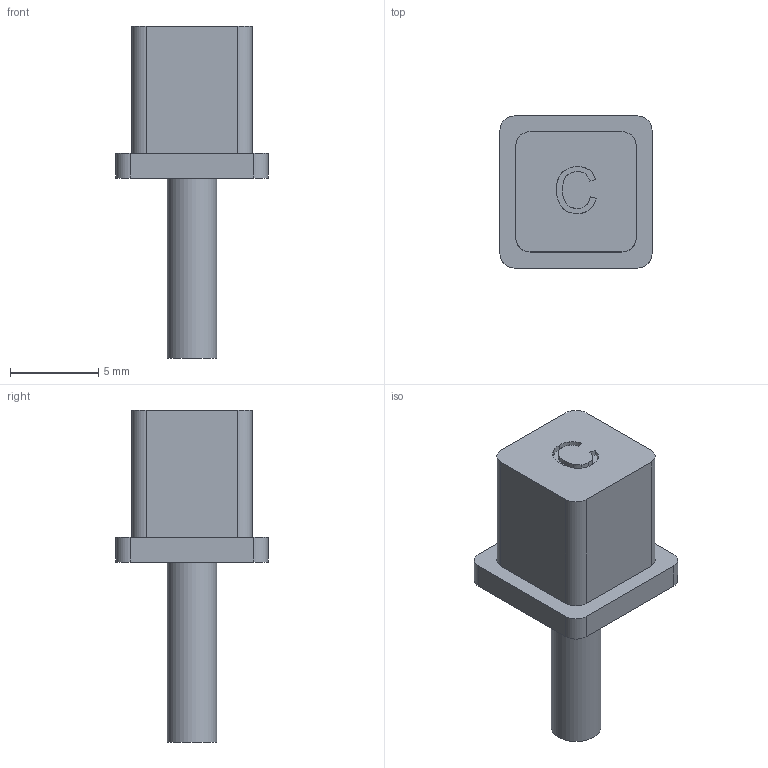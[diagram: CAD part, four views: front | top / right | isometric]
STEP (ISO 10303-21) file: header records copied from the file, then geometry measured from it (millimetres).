
FILE_DESCRIPTION(('Open CASCADE Model'),'2;1');
FILE_NAME('Open CASCADE Shape Model','2026-11-14T12:36:32',('Author'),( 'Open CASCADE'),'Open CASCADE STEP processor 7.9','Open CASCADE 7.9' ,'Unknown');
FILE_SCHEMA(('AUTOMOTIVE_DESIGN { 1 0 10303 214 1 1 1 1 }'));
Length unit declared in the file: millimetre
Products named in the file (1): Open CASCADE STEP translator 7.9 6
Bounding box: 8.6 x 8.6 x 18.77 mm (x, y, z)
Volume: 493.8 mm3; surface area: 472.3 mm2
Topology: 1 solids, 1 shells, 44 faces, 117 edges, 78 vertices
Faces by surface type: extrusion 20, plane 15, cylinder 9
Full cylindrical faces by diameter (mm): 2.8 x1
Entity records: 3325 total; most frequent: CARTESIAN_POINT 1144, DIRECTION 326, ORIENTED_EDGE 234, PCURVE 234, DEFINITIONAL_REPRESENTATION 234, VECTOR 231, LINE 211, B_SPLINE_CURVE_WITH_KNOTS 124
